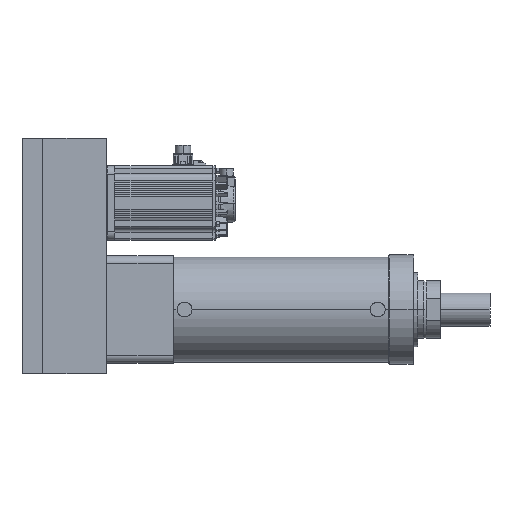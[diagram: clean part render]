
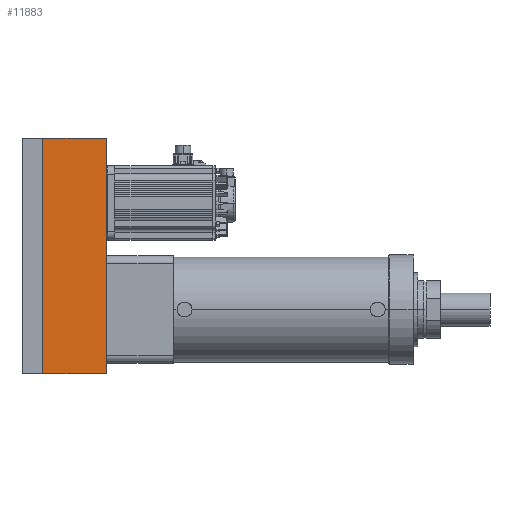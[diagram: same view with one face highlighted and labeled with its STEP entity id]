
A CAD part, top view. The second image highlights one B-rep face of the part: STEP entity #11883.
In plain terms, the highlighted planar face has unit normal (0, 0, 1).
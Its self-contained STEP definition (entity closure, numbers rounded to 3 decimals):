
#147 = EDGE_CURVE ( 'NONE', #20853, #11500, #21386, .T. ) ;
#163 = DIRECTION ( 'NONE',  ( 1., 0., 0. ) ) ;
#393 = LINE ( 'NONE', #4025, #15000 ) ;
#1658 = VERTEX_POINT ( 'NONE', #8972 ) ;
#2042 = ORIENTED_EDGE ( 'NONE', *, *, #22242, .F. ) ;
#2300 = CARTESIAN_POINT ( 'NONE',  ( -162., 415., 155. ) ) ;
#3939 = CARTESIAN_POINT ( 'NONE',  ( -317., 415., 155. ) ) ;
#3999 = DIRECTION ( 'NONE',  ( 1., 0., 0. ) ) ;
#4025 = CARTESIAN_POINT ( 'NONE',  ( -317., 415., 155. ) ) ;
#4584 = AXIS2_PLACEMENT_3D ( 'NONE', #23195, #12432, #17820 ) ;
#5331 = ORIENTED_EDGE ( 'NONE', *, *, #13774, .T. ) ;
#5591 = EDGE_LOOP ( 'NONE', ( #13472, #21334, #5331, #2042 ) ) ;
#5965 = CARTESIAN_POINT ( 'NONE',  ( -317., -155., 155. ) ) ;
#7203 = VECTOR ( 'NONE', #163, 1000. ) ;
#8972 = CARTESIAN_POINT ( 'NONE',  ( -162., 415., 155. ) ) ;
#9367 = EDGE_CURVE ( 'NONE', #20853, #10896, #393, .T. ) ;
#10896 = VERTEX_POINT ( 'NONE', #3939 ) ;
#10910 = CARTESIAN_POINT ( 'NONE',  ( -367., 415., 155. ) ) ;
#11226 = VECTOR ( 'NONE', #3999, 1000. ) ;
#11448 = LINE ( 'NONE', #2300, #19908 ) ;
#11500 = VERTEX_POINT ( 'NONE', #18223 ) ;
#11883 = ADVANCED_FACE ( 'NONE', ( #23092 ), #22009, .F. ) ;
#12432 = DIRECTION ( 'NONE',  ( 0., 0., -1. ) ) ;
#12832 = LINE ( 'NONE', #10910, #7203 ) ;
#13038 = DIRECTION ( 'NONE',  ( 0., 1., 0. ) ) ;
#13053 = CARTESIAN_POINT ( 'NONE',  ( -367., -155., 155. ) ) ;
#13472 = ORIENTED_EDGE ( 'NONE', *, *, #9367, .F. ) ;
#13774 = EDGE_CURVE ( 'NONE', #11500, #1658, #11448, .T. ) ;
#15000 = VECTOR ( 'NONE', #13038, 1000. ) ;
#17118 = DIRECTION ( 'NONE',  ( 0., 1., 0. ) ) ;
#17820 = DIRECTION ( 'NONE',  ( -1., 0., 0. ) ) ;
#18223 = CARTESIAN_POINT ( 'NONE',  ( -162., -155., 155. ) ) ;
#19908 = VECTOR ( 'NONE', #17118, 1000. ) ;
#20853 = VERTEX_POINT ( 'NONE', #5965 ) ;
#21334 = ORIENTED_EDGE ( 'NONE', *, *, #147, .T. ) ;
#21386 = LINE ( 'NONE', #13053, #11226 ) ;
#22009 = PLANE ( 'NONE',  #4584 ) ;
#22242 = EDGE_CURVE ( 'NONE', #10896, #1658, #12832, .T. ) ;
#23092 = FACE_OUTER_BOUND ( 'NONE', #5591, .T. ) ;
#23195 = CARTESIAN_POINT ( 'NONE',  ( -367., 415., 155. ) ) ;
